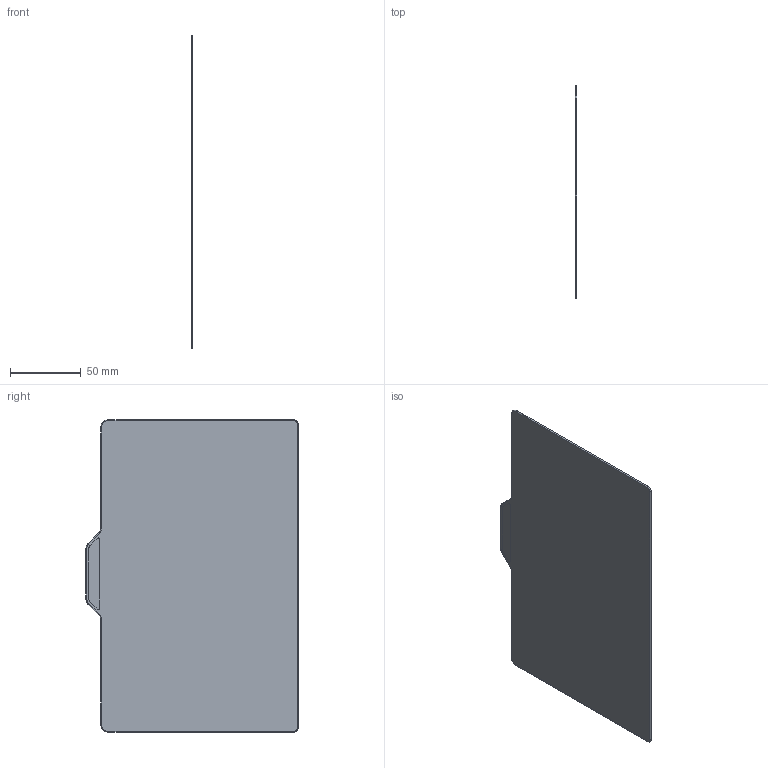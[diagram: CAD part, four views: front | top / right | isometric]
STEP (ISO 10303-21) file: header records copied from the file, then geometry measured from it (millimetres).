
FILE_DESCRIPTION(/* description */ (''),/* implementation_level */ '2;1');
FILE_NAME(/* name */ 'div2.step',/* time_stamp */ '2026-02-05T22:39:16-07:00',/* author */ (''),/* organization */ (''),/* preprocessor_version */ 'ST-DEVELOPER v20.1',/* originating_system */ 'Autodesk Translation Framework v14.24.0.0',/* authorisation */ '');
FILE_SCHEMA (('AUTOMOTIVE_DESIGN { 1 0 10303 214 3 1 1 }'));
Length unit declared in the file: millimetre
Products named in the file (1): 2026-02-04-18-24-39-966
Bounding box: 1.2 x 150.2 x 221 mm (x, y, z)
Volume: 37534.1 mm3; surface area: 63496.2 mm2
Topology: 2 solids, 2 shells, 36 faces, 96 edges, 64 vertices
Faces by surface type: cylinder 16, plane 12, torus 8
Entity records: 1184 total; most frequent: DIRECTION 218, CARTESIAN_POINT 197, ORIENTED_EDGE 192, EDGE_CURVE 96, AXIS2_PLACEMENT_3D 85, VERTEX_POINT 64, CIRCLE 48, LINE 48
